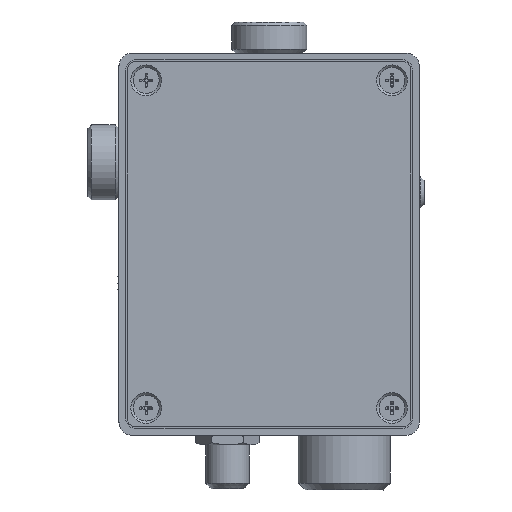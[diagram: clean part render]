
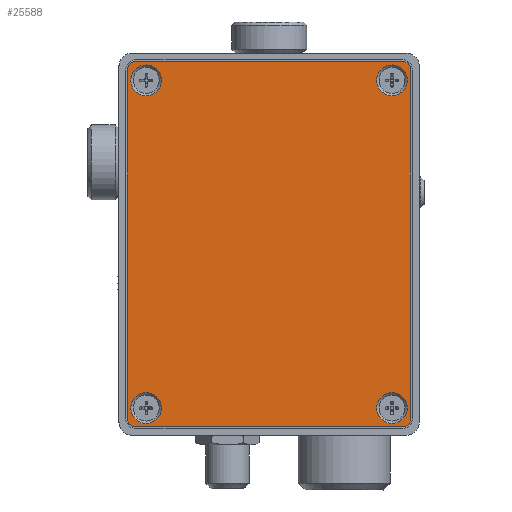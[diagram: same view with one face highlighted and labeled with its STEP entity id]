
A CAD part, front view. The second image highlights one B-rep face of the part: STEP entity #25588.
In plain terms, the highlighted planar face has unit normal (0, -1, 0).
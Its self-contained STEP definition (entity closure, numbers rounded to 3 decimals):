
#622=FACE_BOUND('',#8548,.T.);
#623=FACE_BOUND('',#8549,.T.);
#624=FACE_BOUND('',#8550,.T.);
#625=FACE_BOUND('',#8551,.T.);
#1342=PLANE('',#26789);
#3526=LINE('',#48024,#5796);
#3527=LINE('',#48028,#5797);
#3528=LINE('',#48032,#5798);
#3529=LINE('',#48035,#5799);
#5796=VECTOR('',#31163,10.);
#5797=VECTOR('',#31166,10.);
#5798=VECTOR('',#31169,10.);
#5799=VECTOR('',#31172,10.);
#7143=FACE_OUTER_BOUND('',#8547,.T.);
#8547=EDGE_LOOP('',(#21833,#21834,#21835,#21836,#21837,#21838,#21839,#21840));
#8548=EDGE_LOOP('',(#21841,#21842));
#8549=EDGE_LOOP('',(#21843,#21844));
#8550=EDGE_LOOP('',(#21845,#21846));
#8551=EDGE_LOOP('',(#21847,#21848));
#9023=CIRCLE('',#26790,1.);
#9024=CIRCLE('',#26791,1.);
#9025=CIRCLE('',#26792,1.);
#9026=CIRCLE('',#26793,1.);
#9027=CIRCLE('',#26794,2.25);
#9028=CIRCLE('',#26795,2.25);
#9029=CIRCLE('',#26796,2.25);
#9030=CIRCLE('',#26797,2.25);
#9031=CIRCLE('',#26798,2.25);
#9032=CIRCLE('',#26799,2.25);
#9033=CIRCLE('',#26800,2.25);
#9034=CIRCLE('',#26801,2.25);
#12255=VERTEX_POINT('',#48020);
#12256=VERTEX_POINT('',#48021);
#12257=VERTEX_POINT('',#48023);
#12258=VERTEX_POINT('',#48025);
#12259=VERTEX_POINT('',#48027);
#12260=VERTEX_POINT('',#48029);
#12261=VERTEX_POINT('',#48031);
#12262=VERTEX_POINT('',#48033);
#12263=VERTEX_POINT('',#48036);
#12264=VERTEX_POINT('',#48037);
#12265=VERTEX_POINT('',#48040);
#12266=VERTEX_POINT('',#48041);
#12267=VERTEX_POINT('',#48044);
#12268=VERTEX_POINT('',#48045);
#12269=VERTEX_POINT('',#48048);
#12270=VERTEX_POINT('',#48049);
#15652=EDGE_CURVE('',#12255,#12256,#9023,.T.);
#15653=EDGE_CURVE('',#12255,#12257,#3526,.T.);
#15654=EDGE_CURVE('',#12258,#12257,#9024,.T.);
#15655=EDGE_CURVE('',#12258,#12259,#3527,.T.);
#15656=EDGE_CURVE('',#12260,#12259,#9025,.T.);
#15657=EDGE_CURVE('',#12260,#12261,#3528,.T.);
#15658=EDGE_CURVE('',#12262,#12261,#9026,.T.);
#15659=EDGE_CURVE('',#12262,#12256,#3529,.T.);
#15660=EDGE_CURVE('',#12263,#12264,#9027,.T.);
#15661=EDGE_CURVE('',#12264,#12263,#9028,.T.);
#15662=EDGE_CURVE('',#12265,#12266,#9029,.T.);
#15663=EDGE_CURVE('',#12266,#12265,#9030,.T.);
#15664=EDGE_CURVE('',#12267,#12268,#9031,.T.);
#15665=EDGE_CURVE('',#12268,#12267,#9032,.T.);
#15666=EDGE_CURVE('',#12269,#12270,#9033,.T.);
#15667=EDGE_CURVE('',#12270,#12269,#9034,.T.);
#21833=ORIENTED_EDGE('',*,*,#15652,.F.);
#21834=ORIENTED_EDGE('',*,*,#15653,.T.);
#21835=ORIENTED_EDGE('',*,*,#15654,.F.);
#21836=ORIENTED_EDGE('',*,*,#15655,.T.);
#21837=ORIENTED_EDGE('',*,*,#15656,.F.);
#21838=ORIENTED_EDGE('',*,*,#15657,.T.);
#21839=ORIENTED_EDGE('',*,*,#15658,.F.);
#21840=ORIENTED_EDGE('',*,*,#15659,.T.);
#21841=ORIENTED_EDGE('',*,*,#15660,.T.);
#21842=ORIENTED_EDGE('',*,*,#15661,.T.);
#21843=ORIENTED_EDGE('',*,*,#15662,.T.);
#21844=ORIENTED_EDGE('',*,*,#15663,.T.);
#21845=ORIENTED_EDGE('',*,*,#15664,.T.);
#21846=ORIENTED_EDGE('',*,*,#15665,.T.);
#21847=ORIENTED_EDGE('',*,*,#15666,.T.);
#21848=ORIENTED_EDGE('',*,*,#15667,.T.);
#25588=ADVANCED_FACE('',(#7143,#622,#623,#624,#625),#1342,.T.);
#26789=AXIS2_PLACEMENT_3D('',#48019,#31159,#31160);
#26790=AXIS2_PLACEMENT_3D('',#48022,#31161,#31162);
#26791=AXIS2_PLACEMENT_3D('',#48026,#31164,#31165);
#26792=AXIS2_PLACEMENT_3D('',#48030,#31167,#31168);
#26793=AXIS2_PLACEMENT_3D('',#48034,#31170,#31171);
#26794=AXIS2_PLACEMENT_3D('',#48038,#31173,#31174);
#26795=AXIS2_PLACEMENT_3D('',#48039,#31175,#31176);
#26796=AXIS2_PLACEMENT_3D('',#48042,#31177,#31178);
#26797=AXIS2_PLACEMENT_3D('',#48043,#31179,#31180);
#26798=AXIS2_PLACEMENT_3D('',#48046,#31181,#31182);
#26799=AXIS2_PLACEMENT_3D('',#48047,#31183,#31184);
#26800=AXIS2_PLACEMENT_3D('',#48050,#31185,#31186);
#26801=AXIS2_PLACEMENT_3D('',#48051,#31187,#31188);
#31159=DIRECTION('center_axis',(0.,-1.,0.));
#31160=DIRECTION('ref_axis',(0.,0.,
1.));
#31161=DIRECTION('center_axis',(0.,1.,0.));
#31162=DIRECTION('ref_axis',(0.707,0.,-0.707));
#31163=DIRECTION('',(0.,0.,1.));
#31164=DIRECTION('center_axis',(0.,1.,0.));
#31165=DIRECTION('ref_axis',(0.707,0.,0.707));
#31166=DIRECTION('',(-1.,0.,0.));
#31167=DIRECTION('center_axis',(0.,1.,0.));
#31168=DIRECTION('ref_axis',(-0.707,0.,0.707));
#31169=DIRECTION('',(0.,0.,-1.));
#31170=DIRECTION('center_axis',(0.,1.,0.));
#31171=DIRECTION('ref_axis',(-0.707,0.,-0.707));
#31172=DIRECTION('',(1.,0.,0.));
#31173=DIRECTION('center_axis',(0.,1.,0.));
#31174=DIRECTION('ref_axis',(0.,0.,
1.));
#31175=DIRECTION('center_axis',(0.,1.,0.));
#31176=DIRECTION('ref_axis',(0.,0.,
1.));
#31177=DIRECTION('center_axis',(0.,1.,0.));
#31178=DIRECTION('ref_axis',(0.,0.,
1.));
#31179=DIRECTION('center_axis',(0.,1.,0.));
#31180=DIRECTION('ref_axis',(0.,0.,
1.));
#31181=DIRECTION('center_axis',(0.,1.,0.));
#31182=DIRECTION('ref_axis',(0.,0.,
1.));
#31183=DIRECTION('center_axis',(0.,1.,0.));
#31184=DIRECTION('ref_axis',(0.,0.,
1.));
#31185=DIRECTION('center_axis',(0.,1.,0.));
#31186=DIRECTION('ref_axis',(0.,0.,
1.));
#31187=DIRECTION('center_axis',(0.,1.,0.));
#31188=DIRECTION('ref_axis',(0.,0.,
1.));
#48019=CARTESIAN_POINT('Origin',(21.6,-0.3,28.1));
#48020=CARTESIAN_POINT('',(42.3,-0.3,2.4));
#48021=CARTESIAN_POINT('',(41.3,-0.3,1.4));
#48022=CARTESIAN_POINT('Origin',(41.3,-0.3,2.4));
#48023=CARTESIAN_POINT('',(42.3,-0.3,53.8));
#48024=CARTESIAN_POINT('',(42.3,-0.3,54.8));
#48025=CARTESIAN_POINT('',(41.3,-0.3,54.8));
#48026=CARTESIAN_POINT('Origin',(41.3,-0.3,53.8));
#48027=CARTESIAN_POINT('',(1.9,-0.3,54.8));
#48028=CARTESIAN_POINT('',(0.9,-0.3,54.8));
#48029=CARTESIAN_POINT('',(0.9,-0.3,53.8));
#48030=CARTESIAN_POINT('Origin',(1.9,-0.3,53.8));
#48031=CARTESIAN_POINT('',(0.9,-0.3,2.4));
#48032=CARTESIAN_POINT('',(0.9,-0.3,1.4));
#48033=CARTESIAN_POINT('',(1.9,-0.3,1.4));
#48034=CARTESIAN_POINT('Origin',(1.9,-0.3,2.4));
#48035=CARTESIAN_POINT('',(42.3,-0.3,1.4));
#48036=CARTESIAN_POINT('',(3.6,-0.3,6.35));
#48037=CARTESIAN_POINT('',(3.6,-0.3,1.85));
#48038=CARTESIAN_POINT('Origin',(3.6,-0.3,4.1));
#48039=CARTESIAN_POINT('Origin',(3.6,-0.3,4.1));
#48040=CARTESIAN_POINT('',(39.6,-0.3,54.35));
#48041=CARTESIAN_POINT('',(39.6,-0.3,49.85));
#48042=CARTESIAN_POINT('Origin',(39.6,-0.3,52.1));
#48043=CARTESIAN_POINT('Origin',(39.6,-0.3,52.1));
#48044=CARTESIAN_POINT('',(39.6,-0.3,6.35));
#48045=CARTESIAN_POINT('',(39.6,-0.3,1.85));
#48046=CARTESIAN_POINT('Origin',(39.6,-0.3,4.1));
#48047=CARTESIAN_POINT('Origin',(39.6,-0.3,4.1));
#48048=CARTESIAN_POINT('',(3.6,-0.3,54.35));
#48049=CARTESIAN_POINT('',(3.6,-0.3,49.85));
#48050=CARTESIAN_POINT('Origin',(3.6,-0.3,52.1));
#48051=CARTESIAN_POINT('Origin',(3.6,-0.3,52.1));
